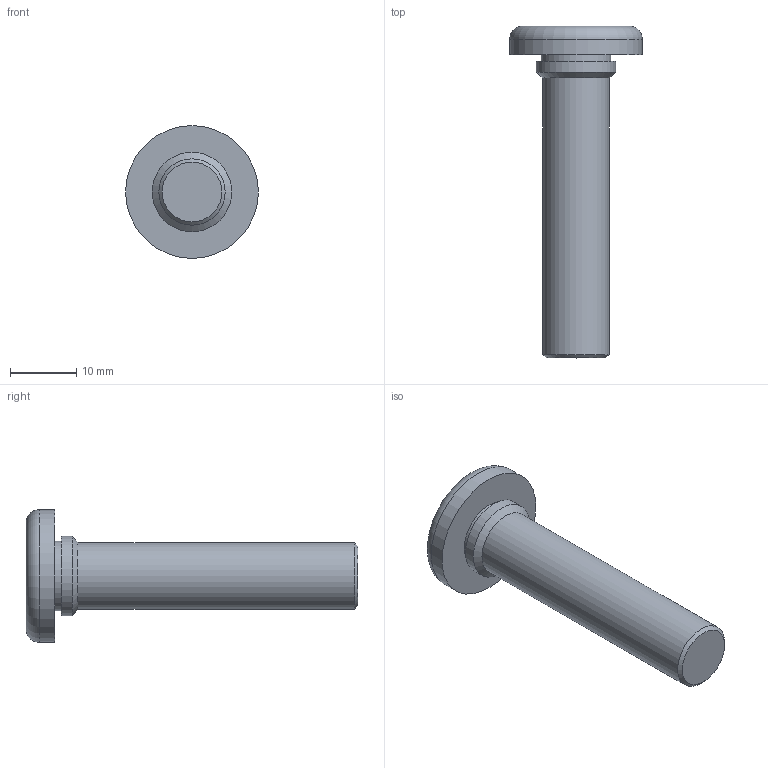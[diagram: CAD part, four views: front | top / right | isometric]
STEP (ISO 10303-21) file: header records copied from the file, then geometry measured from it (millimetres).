
FILE_DESCRIPTION(/* description */ (''),/* implementation_level */ '2;1');
FILE_NAME(/* name */ 'C:\Users\keval.kumar\Desktop\Fastit\Press Screw\M10\Press Screw_M10 x50.stp',/* time_stamp */ '2024-03-12T17:51:21+05:00',/* author */ ('keval.kumar'),/* organization */ (''),/* preprocessor_version */ 'ST-DEVELOPER v18.1',/* originating_system */ 'Autodesk Inventor 2022',/* authorisation */ '');
FILE_SCHEMA (('AUTOMOTIVE_DESIGN { 1 0 10303 214 3 1 1 }'));
Length unit declared in the file: millimetre
Products named in the file (1): Press Screw_M10 x50
Bounding box: 20 x 50 x 20 mm (x, y, z)
Volume: 4964.3 mm3; surface area: 2318.2 mm2
Topology: 1 solids, 1 shells, 11 faces, 19 edges, 12 vertices
Faces by surface type: cylinder 4, plane 4, cone 2, torus 1
Full cylindrical faces by diameter (mm): 10 x1, 10.5 x1, 12 x1, 20 x1
Entity records: 313 total; most frequent: DIRECTION 56, CARTESIAN_POINT 43, ORIENTED_EDGE 38, AXIS2_PLACEMENT_3D 25, EDGE_CURVE 19, EDGE_LOOP 13, CIRCLE 13, VERTEX_POINT 12
